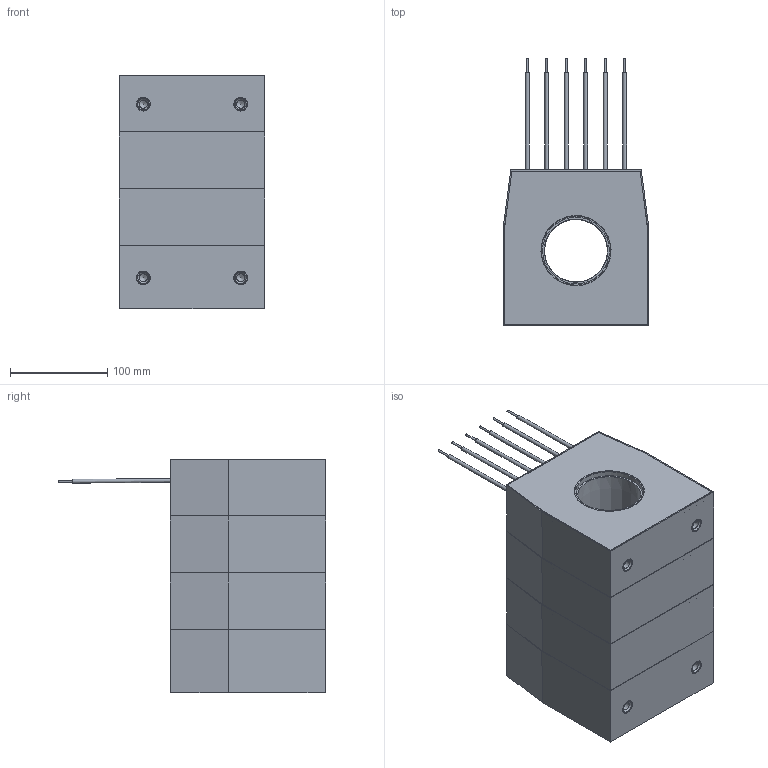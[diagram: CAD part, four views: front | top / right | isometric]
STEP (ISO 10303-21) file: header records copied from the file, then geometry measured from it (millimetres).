
FILE_DESCRIPTION(('STEP AP203'), '1');
FILE_NAME('ÒØÏ-ÍÒÇ-0,66-84Ñ (65 ìì, 4-é ãàáàðèò)', '2025-08-27T09:42:56', ('UNSPECIFIED'), ('UNSPECIFIED'), 'ASCON STEP Converter 1.3', 'ASCON Math Kernel', '');
FILE_SCHEMA(('CONFIG_CONTROL_DESIGN'));
Length unit declared in the file: millimetre
Assembly tree (19 placements, depth 2):
  (unnamed)
    (unnamed)
    (unnamed)  x2
    (unnamed)
    (unnamed)  x4
    (unnamed)  x4
    (unnamed)
    (unnamed)  x6
Bounding box: 150 x 274.82 x 240.5 mm (x, y, z)
Volume: 803424.6 mm3; surface area: 538240.9 mm2
Topology: 19 solids, 19 shells, 303 faces, 681 edges, 443 vertices
Faces by surface type: plane 194, cylinder 73, cone 28, torus 8
Full cylindrical faces by diameter (mm): 2 x6, 3.9 x6, 4 x5, 6 x12, 8.376 x4, 14 x8, 17 x4, 65 x1, 65.05 x1, 68.599 x8, 68.6 x1, 71 x1
Entity records: 7138 total; most frequent: CARTESIAN_POINT 909, DIRECTION 856, ORIENTED_EDGE 782, EDGE_CURVE 391, LINE 300, VECTOR 300, VERTEX_POINT 282, AXIS2_PLACEMENT_3D 278
